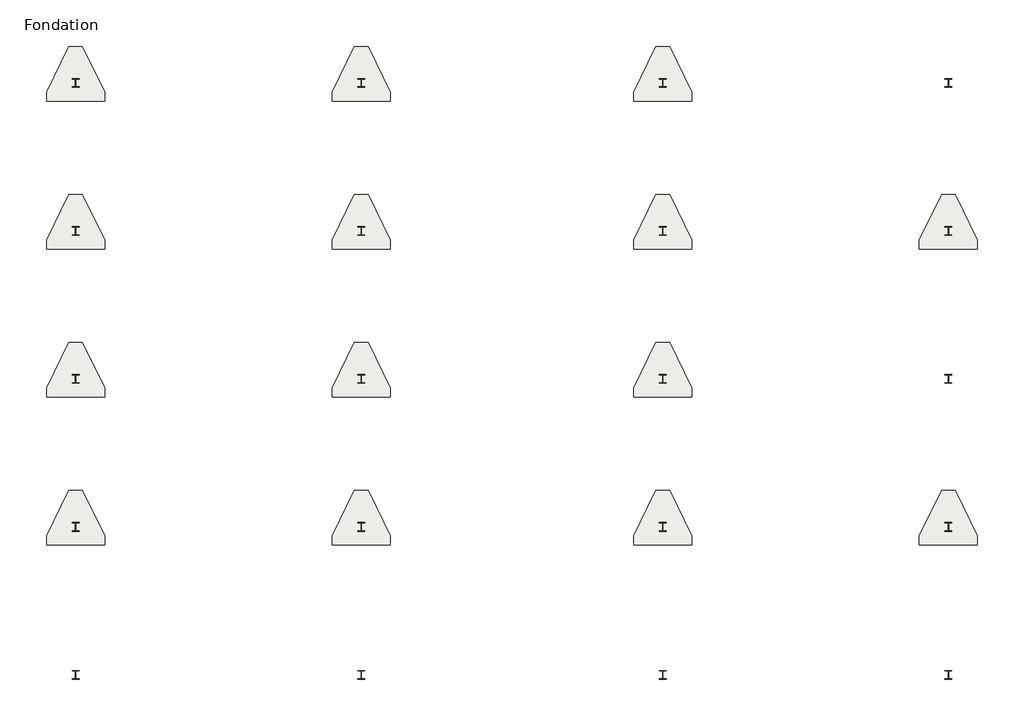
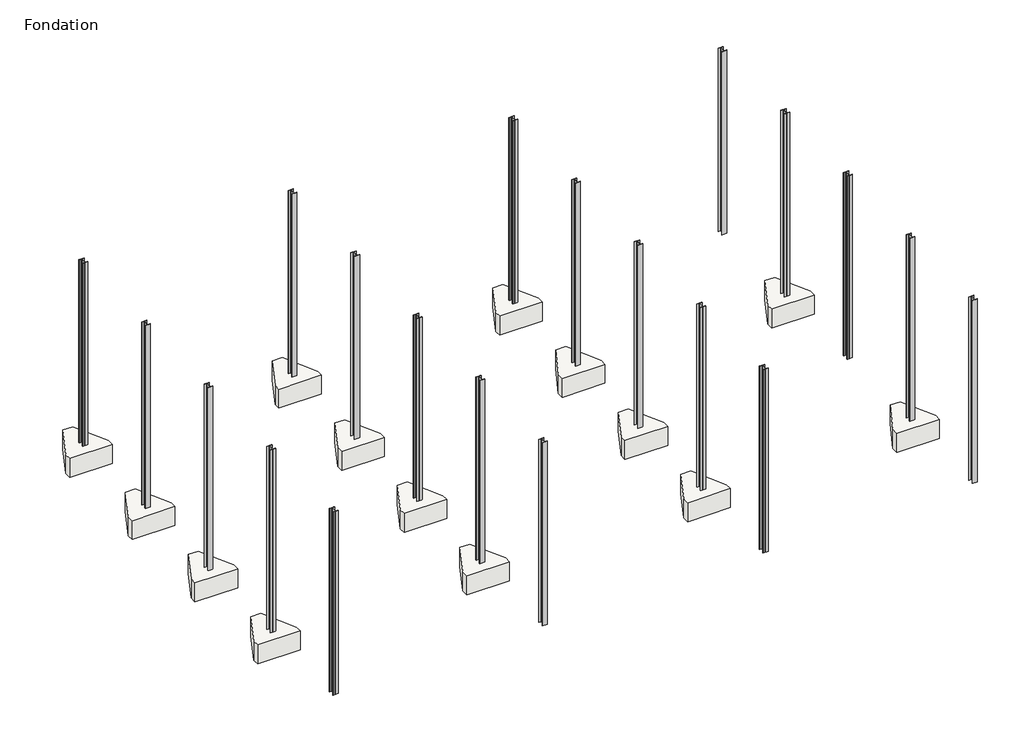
# One storey: 20 columns, 14 slabs.
"""IFC4 building model written with IfcOpenShell, lengths in millimetres."""

from ifc_helpers import new_model, si_unit, origin, place, context, project, spatial, transform, mapped, element, save
from components import w_wide_flange_column_w10x33_8e126d35, slab_cfe150fb

model = new_model("IFC4")

# Units and contexts
model_context = context("Model", 3, world=origin())
ifc_project = project(units=[si_unit("LENGTHUNIT", "METRE", prefix="MILLI")], contexts=[model_context])

# Site, building, storey
site = spatial("IfcSite", under=ifc_project)
building = spatial("IfcBuilding", under=site)
storey = spatial("IfcBuildingStorey", under=building, Name="Fondation", Elevation=-1524.0)

# Columns
placement = place(None, origin())
w_wide_flange_column_w10x33_shape = w_wide_flange_column_w10x33_8e126d35(model_context)
element("IfcColumn", 1, ObjectType="W-Wide Flange-Column : W10X33", at=placement, inside=storey, context=model_context, shape_type="MappedRepresentation", body=[
    mapped(w_wide_flange_column_w10x33_shape, transform((-17911.2480139, 12392.6762973, 0.0), x_axis=(1.0, 0.0, 0.0), y_axis=(0.0, 1.0, 0.0), z_axis=(0.0, 0.0, 1.0))),
])
element("IfcColumn", 2, ObjectType="W-Wide Flange-Column : W10X33", at=placement, inside=storey, context=model_context, shape_type="MappedRepresentation", body=[
    mapped(w_wide_flange_column_w10x33_shape, transform((-17911.2480139, 8125.4762973, 0.0), x_axis=(1.0, 0.0, 0.0), y_axis=(0.0, 1.0, 0.0), z_axis=(0.0, 0.0, 1.0))),
])
element("IfcColumn", 3, ObjectType="W-Wide Flange-Column : W10X33", at=placement, inside=storey, context=model_context, shape_type="MappedRepresentation", body=[
    mapped(w_wide_flange_column_w10x33_shape, transform((-17911.2480139, 3858.2762973, 0.0), x_axis=(1.0, 0.0, 0.0), y_axis=(0.0, 1.0, 0.0), z_axis=(0.0, 0.0, 1.0))),
])
element("IfcColumn", 4, ObjectType="W-Wide Flange-Column : W10X33", at=placement, inside=storey, context=model_context, shape_type="MappedRepresentation", body=[
    mapped(w_wide_flange_column_w10x33_shape, transform((-17911.2480139, -408.9237027, 0.0), x_axis=(1.0, 0.0, 0.0), y_axis=(0.0, 1.0, 0.0), z_axis=(0.0, 0.0, 1.0))),
])
element("IfcColumn", 5, ObjectType="W-Wide Flange-Column : W10X33", at=placement, inside=storey, context=model_context, shape_type="MappedRepresentation", body=[
    mapped(w_wide_flange_column_w10x33_shape, transform((-17911.2480139, -4676.1237027, 0.0), x_axis=(1.0, 0.0, 0.0), y_axis=(0.0, 1.0, 0.0), z_axis=(0.0, 0.0, 1.0))),
])
element("IfcColumn", 6, ObjectType="W-Wide Flange-Column : W10X33", at=placement, inside=storey, context=model_context, shape_type="MappedRepresentation", body=[
    mapped(w_wide_flange_column_w10x33_shape, transform((-9681.6480139, -4676.1237027, 0.0), x_axis=(1.0, 0.0, 0.0), y_axis=(0.0, 1.0, 0.0), z_axis=(0.0, 0.0, 1.0))),
])
element("IfcColumn", 7, ObjectType="W-Wide Flange-Column : W10X33", at=placement, inside=storey, context=model_context, shape_type="MappedRepresentation", body=[
    mapped(w_wide_flange_column_w10x33_shape, transform((-9681.6480139, -408.9237027, 0.0), x_axis=(1.0, 0.0, 0.0), y_axis=(0.0, 1.0, 0.0), z_axis=(0.0, 0.0, 1.0))),
])
element("IfcColumn", 8, ObjectType="W-Wide Flange-Column : W10X33", at=placement, inside=storey, context=model_context, shape_type="MappedRepresentation", body=[
    mapped(w_wide_flange_column_w10x33_shape, transform((-9681.6480139, 3858.2762973, 0.0), x_axis=(1.0, 0.0, 0.0), y_axis=(0.0, 1.0, 0.0), z_axis=(0.0, 0.0, 1.0))),
])
element("IfcColumn", 9, ObjectType="W-Wide Flange-Column : W10X33", at=placement, inside=storey, context=model_context, shape_type="MappedRepresentation", body=[
    mapped(w_wide_flange_column_w10x33_shape, transform((-9681.6480139, 8125.4762973, 0.0), x_axis=(1.0, 0.0, 0.0), y_axis=(0.0, 1.0, 0.0), z_axis=(0.0, 0.0, 1.0))),
])
element("IfcColumn", 10, ObjectType="W-Wide Flange-Column : W10X33", at=placement, inside=storey, context=model_context, shape_type="MappedRepresentation", body=[
    mapped(w_wide_flange_column_w10x33_shape, transform((-994.8480139, 8125.4762973, 0.0), x_axis=(1.0, 0.0, 0.0), y_axis=(0.0, 1.0, 0.0), z_axis=(0.0, 0.0, 1.0))),
])
element("IfcColumn", 11, ObjectType="W-Wide Flange-Column : W10X33", at=placement, inside=storey, context=model_context, shape_type="MappedRepresentation", body=[
    mapped(w_wide_flange_column_w10x33_shape, transform((-994.8480139, 3858.2762973, 0.0), x_axis=(1.0, 0.0, 0.0), y_axis=(0.0, 1.0, 0.0), z_axis=(0.0, 0.0, 1.0))),
])
element("IfcColumn", 12, ObjectType="W-Wide Flange-Column : W10X33", at=placement, inside=storey, context=model_context, shape_type="MappedRepresentation", body=[
    mapped(w_wide_flange_column_w10x33_shape, transform((-994.8480139, -408.9237027, 0.0), x_axis=(1.0, 0.0, 0.0), y_axis=(0.0, 1.0, 0.0), z_axis=(0.0, 0.0, 1.0))),
])
element("IfcColumn", 13, ObjectType="W-Wide Flange-Column : W10X33", at=placement, inside=storey, context=model_context, shape_type="MappedRepresentation", body=[
    mapped(w_wide_flange_column_w10x33_shape, transform((-994.8480139, -4676.1237027, 0.0), x_axis=(1.0, 0.0, 0.0), y_axis=(0.0, 1.0, 0.0), z_axis=(0.0, 0.0, 1.0))),
])
element("IfcColumn", 14, ObjectType="W-Wide Flange-Column : W10X33", at=placement, inside=storey, context=model_context, shape_type="MappedRepresentation", body=[
    mapped(w_wide_flange_column_w10x33_shape, transform((7234.7519861, -4676.1237027, 0.0), x_axis=(1.0, 0.0, 0.0), y_axis=(0.0, 1.0, 0.0), z_axis=(0.0, 0.0, 1.0))),
])
element("IfcColumn", 15, ObjectType="W-Wide Flange-Column : W10X33", at=placement, inside=storey, context=model_context, shape_type="MappedRepresentation", body=[
    mapped(w_wide_flange_column_w10x33_shape, transform((7234.7519861, -408.9237027, 0.0), x_axis=(1.0, 0.0, 0.0), y_axis=(0.0, 1.0, 0.0), z_axis=(0.0, 0.0, 1.0))),
])
element("IfcColumn", 16, ObjectType="W-Wide Flange-Column : W10X33", at=placement, inside=storey, context=model_context, shape_type="MappedRepresentation", body=[
    mapped(w_wide_flange_column_w10x33_shape, transform((7234.7519861, 3858.2762973, 0.0), x_axis=(1.0, 0.0, 0.0), y_axis=(0.0, 1.0, 0.0), z_axis=(0.0, 0.0, 1.0))),
])
element("IfcColumn", 17, ObjectType="W-Wide Flange-Column : W10X33", at=placement, inside=storey, context=model_context, shape_type="MappedRepresentation", body=[
    mapped(w_wide_flange_column_w10x33_shape, transform((7234.7519861, 8125.4762973, 0.0), x_axis=(1.0, 0.0, 0.0), y_axis=(0.0, 1.0, 0.0), z_axis=(0.0, 0.0, 1.0))),
])
element("IfcColumn", 18, ObjectType="W-Wide Flange-Column : W10X33", at=placement, inside=storey, context=model_context, shape_type="MappedRepresentation", body=[
    mapped(w_wide_flange_column_w10x33_shape, transform((7234.7519861, 12392.6762973, 0.0), x_axis=(1.0, 0.0, 0.0), y_axis=(0.0, 1.0, 0.0), z_axis=(0.0, 0.0, 1.0))),
])
element("IfcColumn", 19, ObjectType="W-Wide Flange-Column : W10X33", at=placement, inside=storey, context=model_context, shape_type="MappedRepresentation", body=[
    mapped(w_wide_flange_column_w10x33_shape, transform((-994.8480139, 12392.6762973, 0.0), x_axis=(1.0, 0.0, 0.0), y_axis=(0.0, 1.0, 0.0), z_axis=(0.0, 0.0, 1.0))),
])
element("IfcColumn", 20, ObjectType="W-Wide Flange-Column : W10X33", at=placement, inside=storey, context=model_context, shape_type="MappedRepresentation", body=[
    mapped(w_wide_flange_column_w10x33_shape, transform((-9681.6480139, 12392.6762973, 0.0), x_axis=(1.0, 0.0, 0.0), y_axis=(0.0, 1.0, 0.0), z_axis=(0.0, 0.0, 1.0))),
])

# Slabs
slab_shape = slab_cfe150fb(model_context)
element("IfcSlab", 21, ObjectType="Pile Cap-3 pile : 62\" x 66\" x 31\"", at=placement, inside=storey, context=model_context, shape_type="MappedRepresentation", body=[
    mapped(slab_shape, transform((-17911.2480139, -408.9237027, -1524.0), x_axis=(1.0, 0.0, 0.0), y_axis=(0.0, 1.0, 0.0), z_axis=(0.0, 0.0, 1.0))),
])
element("IfcSlab", 22, ObjectType="Pile Cap-3 pile : 62\" x 66\" x 31\"", at=placement, inside=storey, context=model_context, shape_type="MappedRepresentation", body=[
    mapped(slab_shape, transform((-17911.2480139, 3858.2762973, -1524.0), x_axis=(1.0, 0.0, 0.0), y_axis=(0.0, 1.0, 0.0), z_axis=(0.0, 0.0, 1.0))),
])
element("IfcSlab", 23, ObjectType="Pile Cap-3 pile : 62\" x 66\" x 31\"", at=placement, inside=storey, context=model_context, shape_type="MappedRepresentation", body=[
    mapped(slab_shape, transform((-17911.2480139, 8125.4762973, -1524.0), x_axis=(1.0, 0.0, 0.0), y_axis=(0.0, 1.0, 0.0), z_axis=(0.0, 0.0, 1.0))),
])
element("IfcSlab", 24, ObjectType="Pile Cap-3 pile : 62\" x 66\" x 31\"", at=placement, inside=storey, context=model_context, shape_type="MappedRepresentation", body=[
    mapped(slab_shape, transform((-17911.2480139, 12392.6762973, -1524.0), x_axis=(1.0, 0.0, 0.0), y_axis=(0.0, 1.0, 0.0), z_axis=(0.0, 0.0, 1.0))),
])
element("IfcSlab", 25, ObjectType="Pile Cap-3 pile : 62\" x 66\" x 31\"", at=placement, inside=storey, context=model_context, shape_type="MappedRepresentation", body=[
    mapped(slab_shape, transform((-9681.6480139, 12392.6762973, -1524.0), x_axis=(1.0, 0.0, 0.0), y_axis=(0.0, 1.0, 0.0), z_axis=(0.0, 0.0, 1.0))),
])
element("IfcSlab", 26, ObjectType="Pile Cap-3 pile : 62\" x 66\" x 31\"", at=placement, inside=storey, context=model_context, shape_type="MappedRepresentation", body=[
    mapped(slab_shape, transform((-9681.6480139, 8125.4762973, -1524.0), x_axis=(1.0, 0.0, 0.0), y_axis=(0.0, 1.0, 0.0), z_axis=(0.0, 0.0, 1.0))),
])
element("IfcSlab", 27, ObjectType="Pile Cap-3 pile : 62\" x 66\" x 31\"", at=placement, inside=storey, context=model_context, shape_type="MappedRepresentation", body=[
    mapped(slab_shape, transform((-9681.6480139, 3858.2762973, -1524.0), x_axis=(1.0, 0.0, 0.0), y_axis=(0.0, 1.0, 0.0), z_axis=(0.0, 0.0, 1.0))),
])
element("IfcSlab", 28, ObjectType="Pile Cap-3 pile : 62\" x 66\" x 31\"", at=placement, inside=storey, context=model_context, shape_type="MappedRepresentation", body=[
    mapped(slab_shape, transform((-9681.6480139, -408.9237027, -1524.0), x_axis=(1.0, 0.0, 0.0), y_axis=(0.0, 1.0, 0.0), z_axis=(0.0, 0.0, 1.0))),
])
element("IfcSlab", 29, ObjectType="Pile Cap-3 pile : 62\" x 66\" x 31\"", at=placement, inside=storey, context=model_context, shape_type="MappedRepresentation", body=[
    mapped(slab_shape, transform((-994.8480139, -408.9237027, -1524.0), x_axis=(1.0, 0.0, 0.0), y_axis=(0.0, 1.0, 0.0), z_axis=(0.0, 0.0, 1.0))),
])
element("IfcSlab", 30, ObjectType="Pile Cap-3 pile : 62\" x 66\" x 31\"", at=placement, inside=storey, context=model_context, shape_type="MappedRepresentation", body=[
    mapped(slab_shape, transform((-994.8480139, 3858.2762973, -1524.0), x_axis=(1.0, 0.0, 0.0), y_axis=(0.0, 1.0, 0.0), z_axis=(0.0, 0.0, 1.0))),
])
element("IfcSlab", 31, ObjectType="Pile Cap-3 pile : 62\" x 66\" x 31\"", at=placement, inside=storey, context=model_context, shape_type="MappedRepresentation", body=[
    mapped(slab_shape, transform((-994.8480139, 8125.4762973, -1524.0), x_axis=(1.0, 0.0, 0.0), y_axis=(0.0, 1.0, 0.0), z_axis=(0.0, 0.0, 1.0))),
])
element("IfcSlab", 32, ObjectType="Pile Cap-3 pile : 62\" x 66\" x 31\"", at=placement, inside=storey, context=model_context, shape_type="MappedRepresentation", body=[
    mapped(slab_shape, transform((-994.8480139, 12392.6762973, -1524.0), x_axis=(1.0, 0.0, 0.0), y_axis=(0.0, 1.0, 0.0), z_axis=(0.0, 0.0, 1.0))),
])
element("IfcSlab", 33, ObjectType="Pile Cap-3 pile : 62\" x 66\" x 31\"", at=placement, inside=storey, context=model_context, shape_type="MappedRepresentation", body=[
    mapped(slab_shape, transform((7234.7519861, 8125.4762973, -1524.0), x_axis=(1.0, 0.0, 0.0), y_axis=(0.0, 1.0, 0.0), z_axis=(0.0, 0.0, 1.0))),
])
element("IfcSlab", 34, ObjectType="Pile Cap-3 pile : 62\" x 66\" x 31\"", at=placement, inside=storey, context=model_context, shape_type="MappedRepresentation", body=[
    mapped(slab_shape, transform((7234.7519861, -408.9237027, -1524.0), x_axis=(1.0, 0.0, 0.0), y_axis=(0.0, 1.0, 0.0), z_axis=(0.0, 0.0, 1.0))),
])

save(model, "model.ifc")
